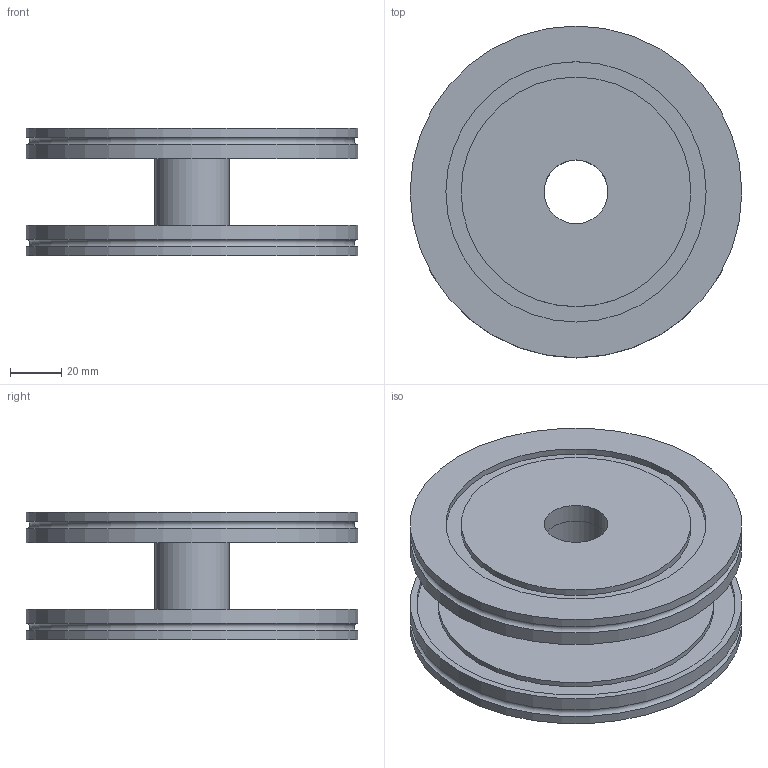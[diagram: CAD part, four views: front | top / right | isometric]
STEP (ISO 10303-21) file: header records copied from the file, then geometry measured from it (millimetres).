
FILE_DESCRIPTION( ( 'Unknown' ), '1' );
FILE_NAME( 'X:/Daten ( aktueller Bestand )/Projekte und Zeichnungen/Solid Edge/9 ISO-K Verzweigungen/ISO-K-KF-Übergangsstücke/6186.stp', 'Unknown', ( 'Unknown' ), ( 'Unknown' ), 'XStep 1.0', 'Unknown', ' ' );
FILE_SCHEMA( ( 'automotive_design' ) );
Length unit declared in the file: millimetre
Products named in the file (3): Assem1; 6186-1; 6186-2
Bounding box: 130 x 130 x 50 mm (x, y, z)
Volume: 299279.9 mm3; surface area: 87712.1 mm2
Topology: 4 solids, 4 shells, 48 faces, 76 edges, 48 vertices
Faces by surface type: cylinder 24, plane 20, cone 2, torus 2
Full cylindrical faces by diameter (mm): 25 x4, 26.2 x2, 29 x2, 29.5 x2, 40 x2, 90 x2, 102 x2, 108 x2, 125 x2, 130 x4
Entity records: 672 total; most frequent: DIRECTION 102, CARTESIAN_POINT 75, AXIS2_PLACEMENT_3D 51, EDGE_LOOP 48, ORIENTED_EDGE 48, FACE_OUTER_BOUND 37, ADVANCED_FACE 24, EDGE_CURVE 24
